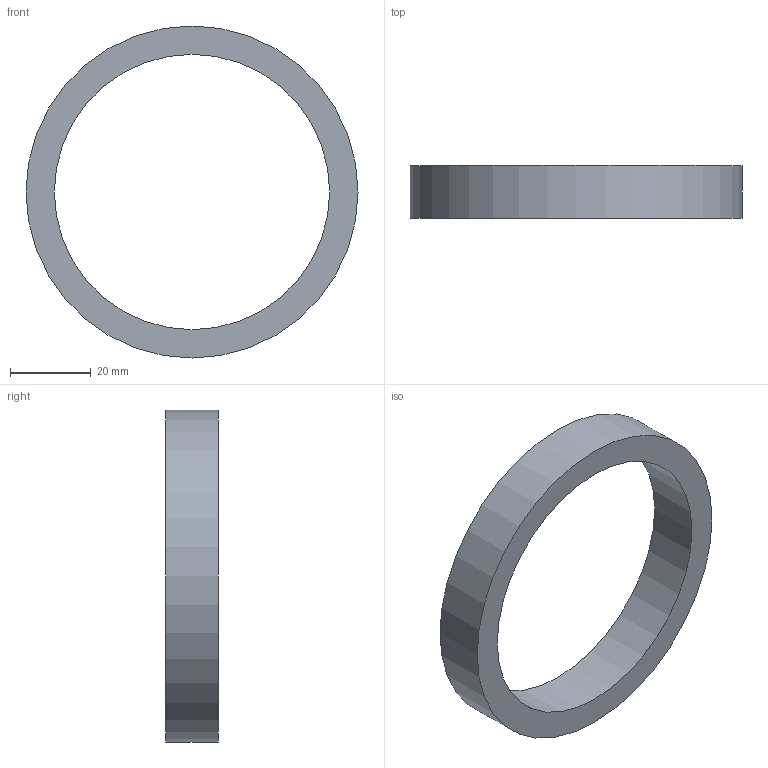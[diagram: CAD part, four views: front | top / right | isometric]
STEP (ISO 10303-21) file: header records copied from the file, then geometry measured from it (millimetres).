
FILE_DESCRIPTION(('FreeCAD Model'),'2;1');
FILE_NAME('Open CASCADE Shape Model','2026-10-05T09:22:52',('Author'),( ''),'Open CASCADE STEP processor 7.8','FreeCAD','Unknown');
FILE_SCHEMA(('AUTOMOTIVE_DESIGN { 1 0 10303 214 1 1 1 1 }'));
Length unit declared in the file: millimetre
Products named in the file (1): ShoulderFlexionGimbal
Bounding box: 82 x 13 x 82 mm (x, y, z)
Volume: 21441.4 mm3; surface area: 9424.8 mm2
Topology: 1 solids, 1 shells, 4 faces, 6 edges, 4 vertices
Faces by surface type: cylinder 2, plane 2
Full cylindrical faces by diameter (mm): 68 x1, 82 x1
Entity records: 108 total; most frequent: DIRECTION 20, CARTESIAN_POINT 15, ORIENTED_EDGE 12, AXIS2_PLACEMENT_3D 9, FACE_BOUND 6, EDGE_LOOP 6, EDGE_CURVE 6, ADVANCED_FACE 4
